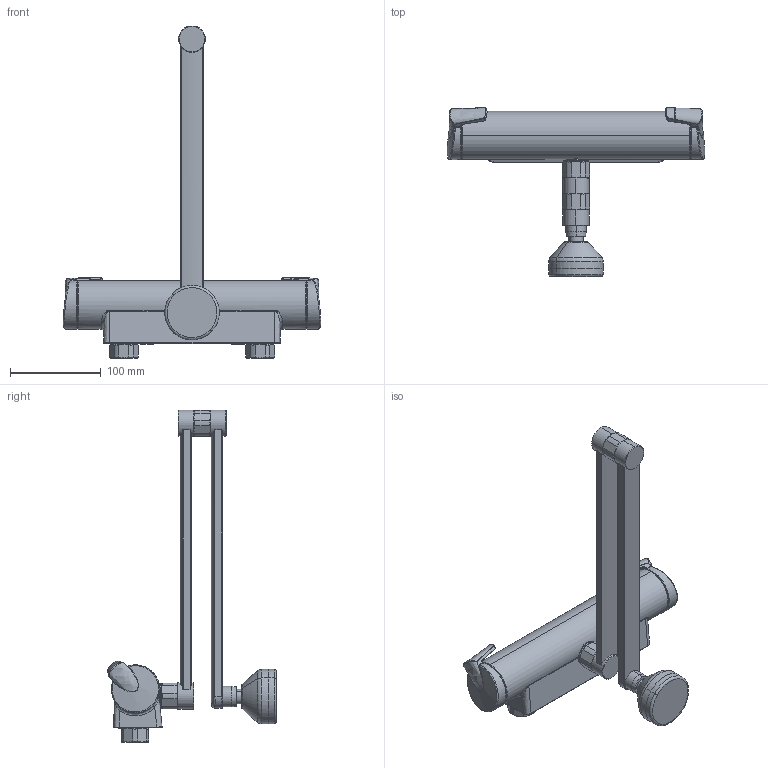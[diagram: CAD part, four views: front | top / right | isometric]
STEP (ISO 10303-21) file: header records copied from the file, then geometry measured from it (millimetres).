
FILE_DESCRIPTION (( 'STEP AP203' ), '1' );
FILE_NAME ('7131.STEP', '2018-03-02T07:53:22', ( '' ), ( '' ), 'SwSTEP 2.0', 'SolidWorks 2016', '' );
FILE_SCHEMA (( 'CONFIG_CONTROL_DESIGN' ));
Length unit declared in the file: millimetre
Products named in the file (1): 7131
Bounding box: 283.13 x 185.88 x 365.29 mm (x, y, z)
Surface area: 136531.5 mm2 (no closed solid volume)
Topology: 0 solids, 3 shells, 410 faces, 987 edges, 599 vertices
Faces by surface type: bspline 130, cylinder 106, cone 72, plane 71, torus 21, sphere 10
Entity records: 27992 total; most frequent: CARTESIAN_POINT 19604, ORIENTED_EDGE 1950, DIRECTION 1437, EDGE_CURVE 977, AXIS2_PLACEMENT_3D 622, VERTEX_POINT 595, EDGE_LOOP 434, B_SPLINE_CURVE_WITH_KNOTS 417
